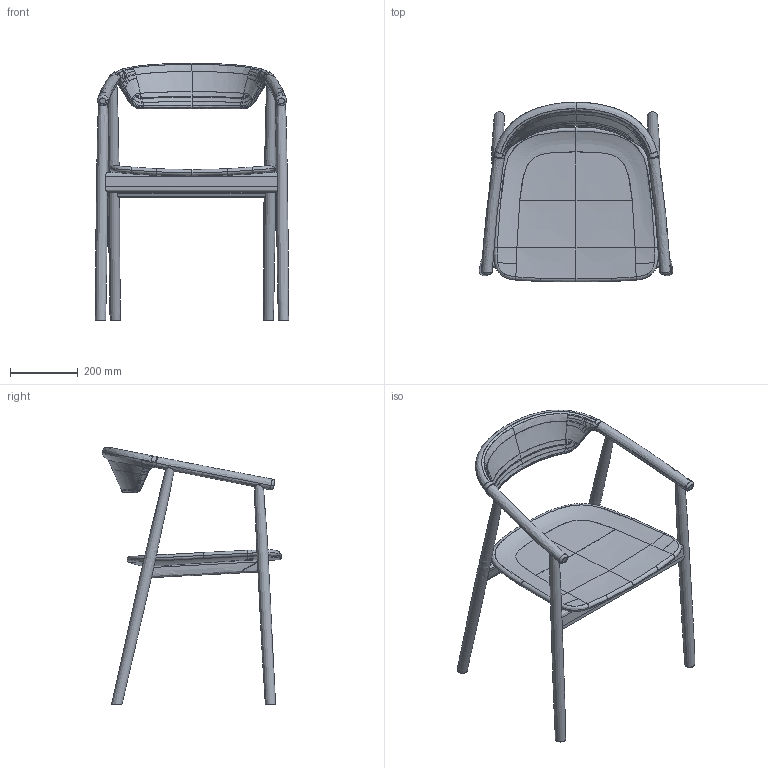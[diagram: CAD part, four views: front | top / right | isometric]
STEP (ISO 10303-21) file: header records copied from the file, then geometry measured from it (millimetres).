
FILE_DESCRIPTION(/* description */ (''),/* implementation_level */ '2;1');
FILE_NAME(/* name */ 'MC21_L~1',/* time_stamp */ '2021-04-14T13:51:46+02:00',/* author */ (''),/* organization */ (''),/* preprocessor_version */ 'ST-DEVELOPER v16.5',/* originating_system */ '',/* authorisation */ '');
FILE_SCHEMA (('AUTOMOTIVE_DESIGN'));
Length unit declared in the file: millimetre
Products named in the file (1): Document
Bounding box: 568.34 x 528.5 x 757.94 mm (x, y, z)
Surface area: 1102432.9 mm2 (no closed solid volume)
Topology: 0 solids, 354 shells, 354 faces, 1674 edges, 1658 vertices
Faces by surface type: bspline 354
Entity records: 140963 total; most frequent: CARTESIAN_POINT 125392, B_SPLINE_CURVE_WITH_KNOTS 3109, ORIENTED_EDGE 1683, PCURVE 1683, DEFINITIONAL_REPRESENTATION 1683, SURFACE_CURVE 1671, EDGE_CURVE 1671, VERTEX_POINT 1656
